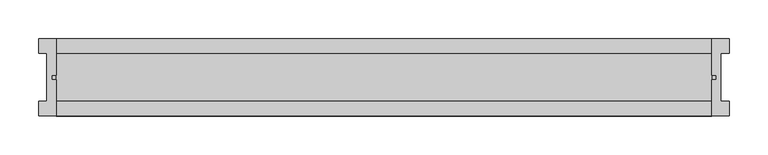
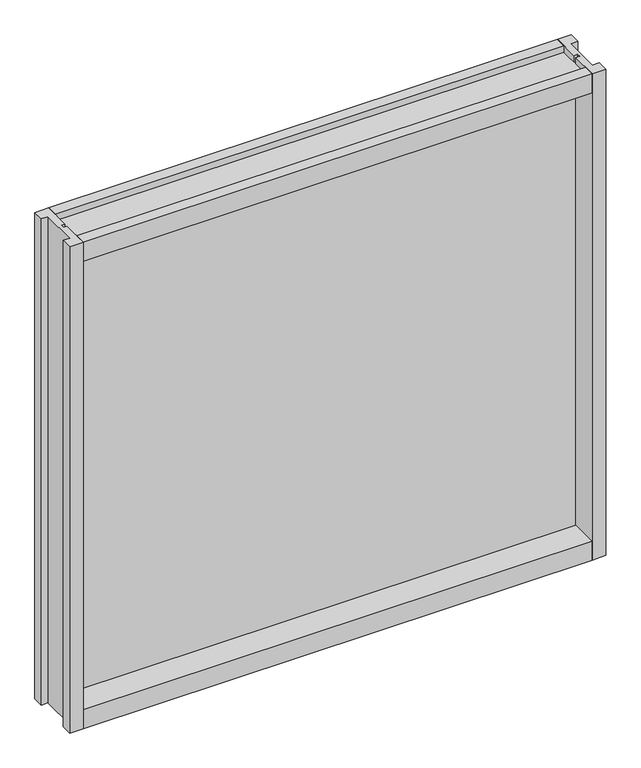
"""IFC4 building model written with IfcOpenShell, lengths in millimetres: proxy geometry, Panel-Clerestory-Teknion-Optos-Altos_Monolithic_Fascias : FYCG."""

from ifc_helpers import new_model, si_unit, frame, origin, place, context, project, spatial, polyline, outline, extrude, source, transform, mapped, element, save


def specialty_equipment_a7725fb8(model_context):
    return source(origin(), model_context, "Body", "SweptSolid", [
        extrude(outline(polyline([(-447.0356344, 50.0558594), (-424.2153219, 50.0558594), (-424.2153219, 2.9765625), (-430.3113236, 2.9765625), (-430.3113236, -2.9765625), (-424.2153219, -2.9765625), (-424.2153219, -50.0558594), (-447.0356344, -50.0558594), (-447.0356344, -31.2040001), (-436.2207906, -31.2040001), (-436.2207906, 31.2040001), (-447.0356344, 31.2040001), (-447.0356344, 50.0558594)])), frame((0.0, 0.0, 3.175), z_axis=(0.0, 0.0, 1.0), x_axis=(1.0, 0.0, 0.0)), (0.0, 0.0, 1.0), 856.8718389),
        extrude(outline(polyline([(447.0356344, 50.0558594), (447.0356344, 31.2040001), (435.6056344, 31.2040001), (435.6056344, -31.2040001), (447.0356344, -31.2040001), (447.0356344, -50.0558594), (424.2153219, -50.0558594), (424.2153219, -2.9765625), (430.3113236, -2.9765625), (430.3113236, 2.9765625), (424.2153219, 2.9765625), (424.2153219, 50.0558594), (447.0356344, 50.0558594)])), frame((0.0, 0.0, 3.175), z_axis=(0.0, 0.0, 1.0), x_axis=(1.0, 0.0, 0.0)), (0.0, 0.0, 1.0), 856.8718389),
        extrude(outline(polyline([(50.0558594, 827.026838), (2.9765625, 827.026838), (2.9765625, 833.1228398), (-2.9765625, 833.1228398), (-2.9765625, 827.026838), (-50.0558594, 827.026838), (-50.0558594, 860.0468389), (-31.2040001, 860.0468389), (-31.2040001, 848.616839), (31.2040001, 848.616839), (31.2040001, 860.0468389), (50.0558594, 860.0468389), (50.0558594, 827.026838)])), frame((-424.2153219, 0.0, 0.0), z_axis=(1.0, 0.0, 0.0), x_axis=(0.0, 1.0, 0.0)), (0.0, 0.0, 1.0), 848.4306438),
        extrude(outline(polyline([(50.0558594, 36.1950009), (50.0558594, 3.175), (31.2040001, 3.175), (31.2040001, 14.605), (-31.2040001, 14.605), (-31.2040001, 3.175), (-50.0558594, 3.175), (-50.0558594, 36.1950009), (-2.9765625, 36.1950009), (-2.9765625, 30.0989992), (2.9765625, 30.0989992), (2.9765625, 36.1950009), (50.0558594, 36.1950009)])), frame((-424.2153219, 0.0, 0.0), z_axis=(1.0, 0.0, 0.0), x_axis=(0.0, 1.0, 0.0)), (0.0, 0.0, 1.0), 848.4306438),
        extrude(outline(polyline([(432.5731586, 2.9765625), (432.5731586, -2.9765625), (-432.5731586, -2.9765625), (-432.5731586, 2.9765625), (432.5731586, 2.9765625)])), frame((0.0, 0.0, 30.0989992), z_axis=(0.0, 0.0, 1.0), x_axis=(1.0, 0.0, 0.0)), (0.0, 0.0, 1.0), 803.0238406),
    ])


if __name__ == "__main__":
    model = new_model("IFC4")
    model_context = context("Model", 3, world=origin())
    ifc_project = project(units=[si_unit("LENGTHUNIT", "METRE", prefix="MILLI")], contexts=[model_context])
    site = spatial("IfcSite", under=ifc_project)
    building = spatial("IfcBuilding", under=site)
    placement = place(None, origin())
    specialty_equipment_shape = specialty_equipment_a7725fb8(model_context)
    element("IfcBuildingElementProxy", 1, Name="Panel-Clerestory-Teknion-Optos-Altos_Monolithic_Fascias : FYCG", ObjectType="Panel-Clerestory-Teknion-Optos-Altos_Monolithic_Fascias : FYCG", at=placement, inside=building, context=model_context, shape_type="MappedRepresentation", body=[
        mapped(specialty_equipment_shape, transform((0.0, 0.0, 0.0), x_axis=(1.0, 0.0, 0.0), y_axis=(0.0, 1.0, 0.0), z_axis=(0.0, 0.0, 1.0))),
    ])
    save(model, "model.ifc")
